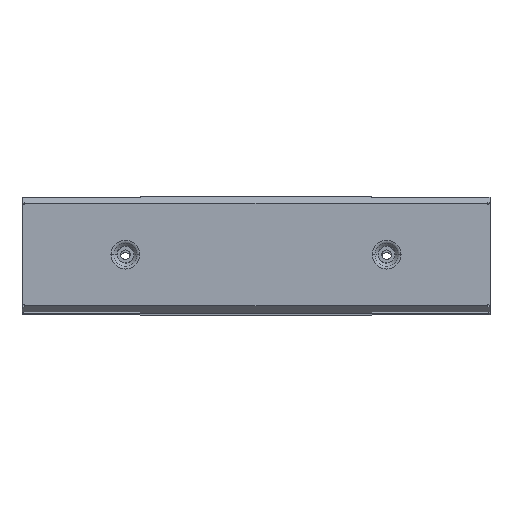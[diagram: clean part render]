
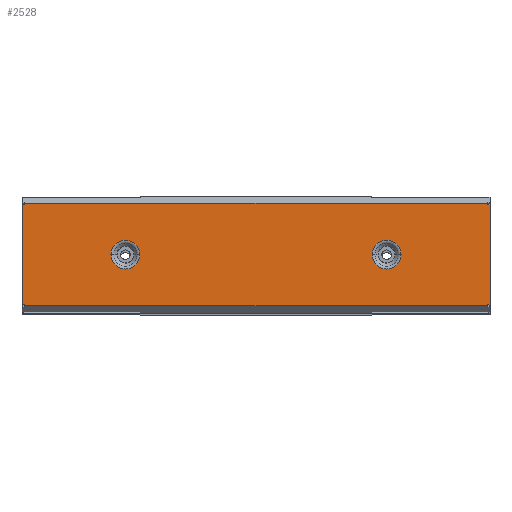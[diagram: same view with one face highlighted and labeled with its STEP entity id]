
A CAD part, top view. The second image highlights one B-rep face of the part: STEP entity #2528.
In plain terms, the highlighted planar face has unit normal (0, 0, 1).
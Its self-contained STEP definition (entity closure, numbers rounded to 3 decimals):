
#4 = DIRECTION ( 'NONE',  ( 0., 0., 1. ) ) ;
#8 = CARTESIAN_POINT ( 'NONE',  ( -195.1, 43.303, 0. ) ) ;
#13 = CARTESIAN_POINT ( 'NONE',  ( -195.1, 42.309, 0. ) ) ;
#16 = ORIENTED_EDGE ( 'NONE', *, *, #2816, .T. ) ;
#25 = VERTEX_POINT ( 'NONE', #811 ) ;
#59 = DIRECTION ( 'NONE',  ( 0., 0., -1. ) ) ;
#69 = DIRECTION ( 'NONE',  ( 1., 0., 0. ) ) ;
#80 = CIRCLE ( 'NONE', #585, 12.175 ) ;
#99 = DIRECTION ( 'NONE',  ( 0., 1., 0. ) ) ;
#101 = CARTESIAN_POINT ( 'NONE',  ( 195.1, 42.309, 0. ) ) ;
#123 = DIRECTION ( 'NONE',  ( -1., 0., 0. ) ) ;
#147 = EDGE_CURVE ( 'NONE', #563, #1244, #542, .T. ) ;
#156 = ORIENTED_EDGE ( 'NONE', *, *, #2011, .F. ) ;
#171 = VECTOR ( 'NONE', #1758, 1000. ) ;
#177 = CARTESIAN_POINT ( 'NONE',  ( 195.1, -42.309, 0. ) ) ;
#181 = ORIENTED_EDGE ( 'NONE', *, *, #1249, .F. ) ;
#200 = EDGE_CURVE ( 'NONE', #1622, #977, #1346, .T. ) ;
#229 = ORIENTED_EDGE ( 'NONE', *, *, #2085, .T. ) ;
#257 = ORIENTED_EDGE ( 'NONE', *, *, #372, .T. ) ;
#318 = ORIENTED_EDGE ( 'NONE', *, *, #2681, .F. ) ;
#372 = EDGE_CURVE ( 'NONE', #483, #25, #1144, .T. ) ;
#379 = CARTESIAN_POINT ( 'NONE',  ( -197.5, 42.309, 0. ) ) ;
#427 = CARTESIAN_POINT ( 'NONE',  ( 122.425, 0., 0. ) ) ;
#453 = CARTESIAN_POINT ( 'NONE',  ( 0., -42.309, 0. ) ) ;
#455 = ORIENTED_EDGE ( 'NONE', *, *, #1809, .F. ) ;
#483 = VERTEX_POINT ( 'NONE', #2770 ) ;
#509 = EDGE_CURVE ( 'NONE', #25, #483, #2758, .T. ) ;
#517 = FACE_OUTER_BOUND ( 'NONE', #2447, .T. ) ;
#535 = EDGE_CURVE ( 'NONE', #861, #2776, #1981, .T. ) ;
#542 = LINE ( 'NONE', #1504, #1698 ) ;
#563 = VERTEX_POINT ( 'NONE', #2969 ) ;
#570 = DIRECTION ( 'NONE',  ( 1., 0., 0. ) ) ;
#572 = DIRECTION ( 'NONE',  ( 0., -1., 0. ) ) ;
#585 = AXIS2_PLACEMENT_3D ( 'NONE', #2029, #2754, #123 ) ;
#589 = EDGE_CURVE ( 'NONE', #2939, #1762, #80, .T. ) ;
#676 = VECTOR ( 'NONE', #2616, 1000. ) ;
#756 = DIRECTION ( 'NONE',  ( -1., 0., 0. ) ) ;
#768 = LINE ( 'NONE', #2633, #2098 ) ;
#774 = FACE_BOUND ( 'NONE', #1209, .T. ) ;
#808 = CARTESIAN_POINT ( 'NONE',  ( -110.25, 0., 0. ) ) ;
#809 = LINE ( 'NONE', #1983, #2358 ) ;
#811 = CARTESIAN_POINT ( 'NONE',  ( -122.425, 0., 0. ) ) ;
#861 = VERTEX_POINT ( 'NONE', #8 ) ;
#879 = DIRECTION ( 'NONE',  ( 0., -1., 0. ) ) ;
#893 = CARTESIAN_POINT ( 'NONE',  ( 197.5, 43.303, 0. ) ) ;
#977 = VERTEX_POINT ( 'NONE', #1307 ) ;
#1110 = CARTESIAN_POINT ( 'NONE',  ( 195.1, -42.309, 0. ) ) ;
#1141 = DIRECTION ( 'NONE',  ( 1., 0., 0. ) ) ;
#1144 = CIRCLE ( 'NONE', #2107, 12.175 ) ;
#1184 = DIRECTION ( 'NONE',  ( 1., 0., 0. ) ) ;
#1190 = ORIENTED_EDGE ( 'NONE', *, *, #147, .T. ) ;
#1209 = EDGE_LOOP ( 'NONE', ( #181, #2838 ) ) ;
#1237 = AXIS2_PLACEMENT_3D ( 'NONE', #808, #59, #1782 ) ;
#1244 = VERTEX_POINT ( 'NONE', #2197 ) ;
#1249 = EDGE_CURVE ( 'NONE', #1762, #2939, #1579, .T. ) ;
#1263 = LINE ( 'NONE', #2240, #171 ) ;
#1307 = CARTESIAN_POINT ( 'NONE',  ( 197.5, -42.309, 0. ) ) ;
#1332 = VECTOR ( 'NONE', #69, 1000. ) ;
#1339 = ORIENTED_EDGE ( 'NONE', *, *, #3107, .T. ) ;
#1343 = VECTOR ( 'NONE', #1643, 1000. ) ;
#1346 = LINE ( 'NONE', #893, #1343 ) ;
#1372 = VERTEX_POINT ( 'NONE', #101 ) ;
#1442 = ORIENTED_EDGE ( 'NONE', *, *, #509, .T. ) ;
#1467 = LINE ( 'NONE', #453, #676 ) ;
#1485 = CARTESIAN_POINT ( 'NONE',  ( -110.25, 0., 0. ) ) ;
#1500 = CARTESIAN_POINT ( 'NONE',  ( -195.1, 42.309, 0. ) ) ;
#1504 = CARTESIAN_POINT ( 'NONE',  ( -195.1, -42.309, 0. ) ) ;
#1519 = LINE ( 'NONE', #1774, #1332 ) ;
#1520 = CARTESIAN_POINT ( 'NONE',  ( 98.075, 0., 0. ) ) ;
#1579 = CIRCLE ( 'NONE', #2694, 12.175 ) ;
#1590 = LINE ( 'NONE', #13, #2401 ) ;
#1603 = ORIENTED_EDGE ( 'NONE', *, *, #535, .F. ) ;
#1622 = VERTEX_POINT ( 'NONE', #2682 ) ;
#1635 = ORIENTED_EDGE ( 'NONE', *, *, #2663, .F. ) ;
#1637 = VECTOR ( 'NONE', #1141, 1000. ) ;
#1643 = DIRECTION ( 'NONE',  ( 0., -1., 0. ) ) ;
#1666 = EDGE_CURVE ( 'NONE', #2619, #861, #768, .T. ) ;
#1698 = VECTOR ( 'NONE', #572, 1000. ) ;
#1710 = DIRECTION ( 'NONE',  ( -1., 0., 0. ) ) ;
#1714 = DIRECTION ( 'NONE',  ( 0., 1., 0. ) ) ;
#1721 = FACE_BOUND ( 'NONE', #2438, .T. ) ;
#1756 = DIRECTION ( 'NONE',  ( 1., 0., 0. ) ) ;
#1758 = DIRECTION ( 'NONE',  ( 0., 1., 0. ) ) ;
#1762 = VERTEX_POINT ( 'NONE', #1520 ) ;
#1768 = DIRECTION ( 'NONE',  ( 0., -1., 0. ) ) ;
#1774 = CARTESIAN_POINT ( 'NONE',  ( 0., 42.309, 0. ) ) ;
#1782 = DIRECTION ( 'NONE',  ( 1., 0., 0. ) ) ;
#1789 = VECTOR ( 'NONE', #879, 1000. ) ;
#1800 = ORIENTED_EDGE ( 'NONE', *, *, #2266, .T. ) ;
#1809 = EDGE_CURVE ( 'NONE', #2705, #2354, #2481, .T. ) ;
#1846 = VECTOR ( 'NONE', #1756, 1000. ) ;
#1869 = LINE ( 'NONE', #177, #1637 ) ;
#1918 = VERTEX_POINT ( 'NONE', #1110 ) ;
#1943 = VERTEX_POINT ( 'NONE', #2539 ) ;
#1961 = CARTESIAN_POINT ( 'NONE',  ( 110.25, 0., 0. ) ) ;
#1976 = ORIENTED_EDGE ( 'NONE', *, *, #1666, .F. ) ;
#1981 = LINE ( 'NONE', #2255, #1846 ) ;
#1983 = CARTESIAN_POINT ( 'NONE',  ( 0., -43.303, 0. ) ) ;
#2011 = EDGE_CURVE ( 'NONE', #563, #2705, #1467, .T. ) ;
#2029 = CARTESIAN_POINT ( 'NONE',  ( 110.25, 0., 0. ) ) ;
#2085 = EDGE_CURVE ( 'NONE', #2619, #2354, #1590, .T. ) ;
#2088 = LINE ( 'NONE', #3038, #1789 ) ;
#2098 = VECTOR ( 'NONE', #1714, 1000. ) ;
#2107 = AXIS2_PLACEMENT_3D ( 'NONE', #1485, #2393, #1184 ) ;
#2197 = CARTESIAN_POINT ( 'NONE',  ( -195.1, -43.303, 0. ) ) ;
#2240 = CARTESIAN_POINT ( 'NONE',  ( 195.1, 42.309, 0. ) ) ;
#2254 = CARTESIAN_POINT ( 'NONE',  ( 0., 43.303, 0. ) ) ;
#2255 = CARTESIAN_POINT ( 'NONE',  ( 0., 43.303, 0. ) ) ;
#2266 = EDGE_CURVE ( 'NONE', #1372, #2776, #1263, .T. ) ;
#2354 = VERTEX_POINT ( 'NONE', #379 ) ;
#2358 = VECTOR ( 'NONE', #570, 1000. ) ;
#2393 = DIRECTION ( 'NONE',  ( 0., 0., -1. ) ) ;
#2401 = VECTOR ( 'NONE', #1710, 1000. ) ;
#2438 = EDGE_LOOP ( 'NONE', ( #257, #1442 ) ) ;
#2447 = EDGE_LOOP ( 'NONE', ( #156, #1190, #1339, #1635, #16, #2457, #318, #1800, #1603, #1976, #229, #455 ) ) ;
#2457 = ORIENTED_EDGE ( 'NONE', *, *, #200, .F. ) ;
#2464 = CARTESIAN_POINT ( 'NONE',  ( -197.5, -42.309, 0. ) ) ;
#2480 = CARTESIAN_POINT ( 'NONE',  ( 195.1, 43.303, 0. ) ) ;
#2481 = LINE ( 'NONE', #2974, #2941 ) ;
#2502 = PLANE ( 'NONE',  #2804 ) ;
#2528 = ADVANCED_FACE ( 'NONE', ( #1721, #774, #517 ), #2502, .T. ) ;
#2539 = CARTESIAN_POINT ( 'NONE',  ( 195.1, -43.303, 0. ) ) ;
#2616 = DIRECTION ( 'NONE',  ( -1., 0., 0. ) ) ;
#2619 = VERTEX_POINT ( 'NONE', #1500 ) ;
#2633 = CARTESIAN_POINT ( 'NONE',  ( -195.1, 43.303, 0. ) ) ;
#2663 = EDGE_CURVE ( 'NONE', #1918, #1943, #2088, .T. ) ;
#2681 = EDGE_CURVE ( 'NONE', #1372, #1622, #1519, .T. ) ;
#2682 = CARTESIAN_POINT ( 'NONE',  ( 197.5, 42.309, 0. ) ) ;
#2694 = AXIS2_PLACEMENT_3D ( 'NONE', #1961, #4, #756 ) ;
#2705 = VERTEX_POINT ( 'NONE', #2464 ) ;
#2754 = DIRECTION ( 'NONE',  ( 0., 0., 1. ) ) ;
#2758 = CIRCLE ( 'NONE', #1237, 12.175 ) ;
#2770 = CARTESIAN_POINT ( 'NONE',  ( -98.075, 0., 0. ) ) ;
#2776 = VERTEX_POINT ( 'NONE', #2480 ) ;
#2804 = AXIS2_PLACEMENT_3D ( 'NONE', #2254, #2968, #1768 ) ;
#2816 = EDGE_CURVE ( 'NONE', #1918, #977, #1869, .T. ) ;
#2838 = ORIENTED_EDGE ( 'NONE', *, *, #589, .F. ) ;
#2939 = VERTEX_POINT ( 'NONE', #427 ) ;
#2941 = VECTOR ( 'NONE', #99, 1000. ) ;
#2968 = DIRECTION ( 'NONE',  ( 0., 0., 1. ) ) ;
#2969 = CARTESIAN_POINT ( 'NONE',  ( -195.1, -42.309, 0. ) ) ;
#2974 = CARTESIAN_POINT ( 'NONE',  ( -197.5, 43.303, 0. ) ) ;
#3038 = CARTESIAN_POINT ( 'NONE',  ( 195.1, 43.303, 0. ) ) ;
#3107 = EDGE_CURVE ( 'NONE', #1244, #1943, #809, .T. ) ;
